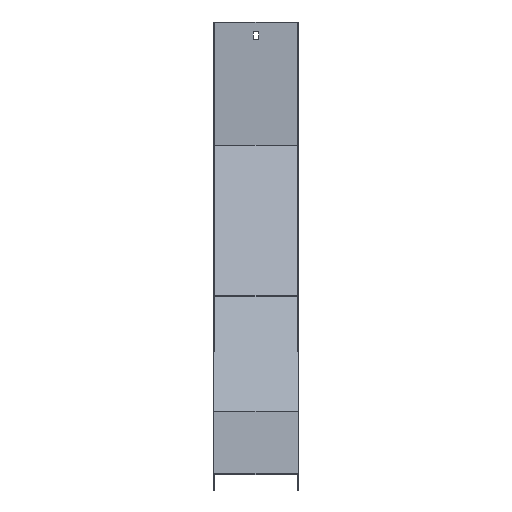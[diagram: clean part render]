
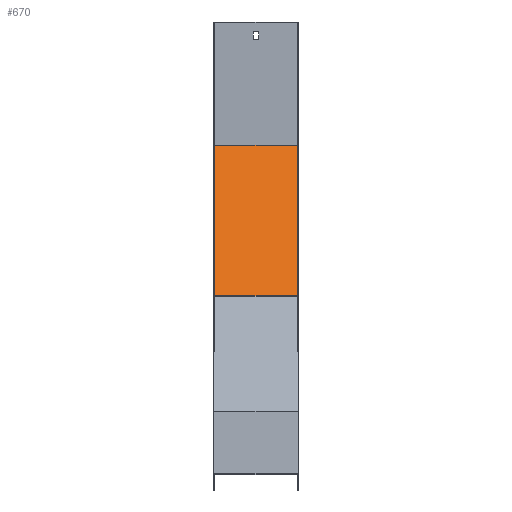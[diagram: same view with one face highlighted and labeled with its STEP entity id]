
A CAD part, top view. The second image highlights one B-rep face of the part: STEP entity #670.
In plain terms, the highlighted planar face has unit normal (0, 0.383, 0.924).
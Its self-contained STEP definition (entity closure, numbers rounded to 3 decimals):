
#19 = CARTESIAN_POINT ( 'NONE',  ( 51.5, 216.541, -473.877 ) ) ;
#34 = DIRECTION ( 'NONE',  ( 0., -0.924, 0.383 ) ) ;
#83 = ORIENTED_EDGE ( 'NONE', *, *, #87, .F. ) ;
#86 = CARTESIAN_POINT ( 'NONE',  ( 51.5, 216.541, -473.877 ) ) ;
#87 = EDGE_CURVE ( 'NONE', #802, #1015, #962, .T. ) ;
#110 = CARTESIAN_POINT ( 'NONE',  ( -51.5, 216.541, -473.877 ) ) ;
#137 = VECTOR ( 'NONE', #1019, 1000. ) ;
#177 = ORIENTED_EDGE ( 'NONE', *, *, #529, .F. ) ;
#192 = CARTESIAN_POINT ( 'NONE',  ( 51.5, 216.541, -473.877 ) ) ;
#208 = ORIENTED_EDGE ( 'NONE', *, *, #1040, .T. ) ;
#233 = CARTESIAN_POINT ( 'NONE',  ( -51.5, 400.116, -549.916 ) ) ;
#281 = VECTOR ( 'NONE', #285, 1000. ) ;
#285 = DIRECTION ( 'NONE',  ( -1., 0., 0. ) ) ;
#335 = CARTESIAN_POINT ( 'NONE',  ( -51.5, 216.541, -473.877 ) ) ;
#440 = LINE ( 'NONE', #1034, #281 ) ;
#460 = VECTOR ( 'NONE', #1033, 1000. ) ;
#529 = EDGE_CURVE ( 'NONE', #1015, #869, #842, .T. ) ;
#550 = EDGE_CURVE ( 'NONE', #974, #869, #440, .T. ) ;
#587 = EDGE_LOOP ( 'NONE', ( #177, #83, #208, #969 ) ) ;
#596 = CARTESIAN_POINT ( 'NONE',  ( 51.5, 400.116, -549.916 ) ) ;
#619 = FACE_OUTER_BOUND ( 'NONE', #587, .T. ) ;
#620 = VECTOR ( 'NONE', #795, 1000. ) ;
#670 = ADVANCED_FACE ( 'NONE', ( #619 ), #964, .T. ) ;
#795 = DIRECTION ( 'NONE',  ( -1., 0., 0. ) ) ;
#802 = VERTEX_POINT ( 'NONE', #984 ) ;
#842 = LINE ( 'NONE', #335, #137 ) ;
#856 = AXIS2_PLACEMENT_3D ( 'NONE', #192, #880, #34 ) ;
#869 = VERTEX_POINT ( 'NONE', #233 ) ;
#880 = DIRECTION ( 'NONE',  ( 0., 0.383, 0.924 ) ) ;
#962 = LINE ( 'NONE', #86, #620 ) ;
#964 = PLANE ( 'NONE',  #856 ) ;
#969 = ORIENTED_EDGE ( 'NONE', *, *, #550, .T. ) ;
#974 = VERTEX_POINT ( 'NONE', #596 ) ;
#984 = CARTESIAN_POINT ( 'NONE',  ( 51.5, 216.541, -473.877 ) ) ;
#1015 = VERTEX_POINT ( 'NONE', #110 ) ;
#1019 = DIRECTION ( 'NONE',  ( 0., 0.924, -0.383 ) ) ;
#1033 = DIRECTION ( 'NONE',  ( 0., 0.924, -0.383 ) ) ;
#1034 = CARTESIAN_POINT ( 'NONE',  ( 51.5, 400.116, -549.916 ) ) ;
#1040 = EDGE_CURVE ( 'NONE', #802, #974, #1045, .T. ) ;
#1045 = LINE ( 'NONE', #19, #460 ) ;
